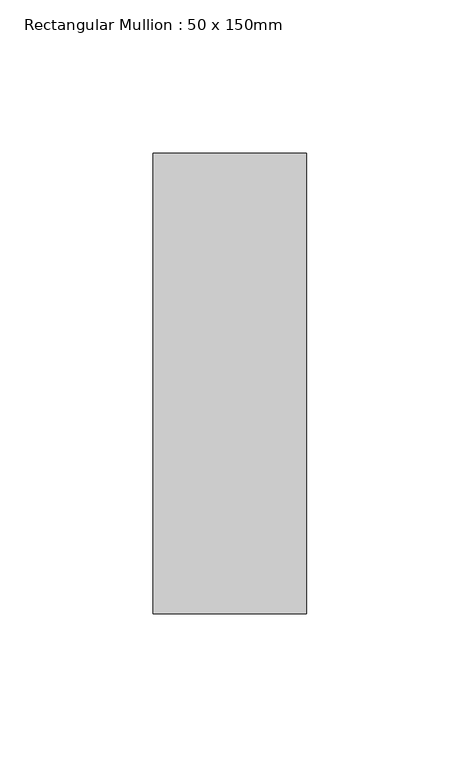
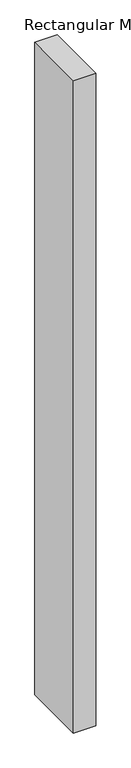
"""IFC4 building model written with IfcOpenShell, lengths in millimetres: member geometry, Rectangular Mullion : 50 x 150mm."""

import ifcopenshell
import ifcopenshell.guid

model = None  # the IFC model being written
_history = None  # IfcOwnerHistory: only IFC2X3 demands one
_inside = {}  # id of a spatial element -> (the spatial element, [elements in it])
_under = {}  # id of a project, library or spatial element -> (it, [spatial elements below it])
_declared = {}  # id of a project -> (the project, [libraries it declares])
_typed = {}  # id of a type object -> (the type object, [elements of that type])
_made_of = {}  # id of a material, layer set ... -> (it, [elements and type objects made of it])


def new_model(schema):
    """Start an empty IFC model of exactly this schema.

    Asked for "IFC4X3", IfcOpenShell would pick the latest addendum, in which some entities
    have other attributes; the version numbers below select the first issue.
    IFC2X3 requires an IfcOwnerHistory on every rooted entity: one is made here for all.
    """
    global model, _history
    if schema == "IFC4X3":
        model = ifcopenshell.file(schema_version=(4, 3, 0, 0))
    else:
        model = ifcopenshell.file(schema=schema)
    _inside.clear()
    _under.clear()
    _declared.clear()
    _typed.clear()
    _made_of.clear()
    _history = None
    if model.schema == "IFC2X3":
        org = make("IfcOrganization", Name="unknown")
        user = make(
            "IfcPersonAndOrganization",
            ThePerson=make("IfcPerson", FamilyName="unknown"),
            TheOrganization=org,
        )
        app = make(
            "IfcApplication",
            ApplicationDeveloper=org,
            Version="unknown",
            ApplicationFullName="unknown",
            ApplicationIdentifier="unknown",
        )
        _history = make(
            "IfcOwnerHistory",
            OwningUser=user,
            OwningApplication=app,
            ChangeAction="ADDED",
            CreationDate=0,
        )
    return model


def make(cls, **values):
    """One entity of the class cls with the attributes given. An attribute that is None is left unset."""
    return model.create_entity(
        cls, **{name: value for name, value in values.items() if value is not None}
    )


def rooted(cls, **values):
    """An entity with a GlobalId (a new one), such as an element, a storey or a relation."""
    return make(cls, GlobalId=ifcopenshell.guid.new(), OwnerHistory=_history, **values)


def si_unit(unit_type, name, prefix=None):
    """IfcSIUnit, for example si_unit("LENGTHUNIT", "METRE", prefix="MILLI")."""
    return make("IfcSIUnit", UnitType=unit_type, Prefix=prefix, Name=name)


def assignment(units):
    """IfcUnitAssignment: the units of a project."""
    return None if units is None else make("IfcUnitAssignment", Units=units)


def point(xyz):
    """IfcCartesianPoint."""
    return None if xyz is None else make("IfcCartesianPoint", Coordinates=xyz)


def direction(xyz):
    """IfcDirection."""
    return None if xyz is None else make("IfcDirection", DirectionRatios=xyz)


def frame(location, z_axis=None, x_axis=None):
    """IfcAxis2Placement3D, a coordinate frame: its origin and axes. An axis left out is left unset."""
    return make(
        "IfcAxis2Placement3D",
        Location=point(location),
        Axis=direction(z_axis),
        RefDirection=direction(x_axis),
    )


def origin():
    """The frame at (0, 0, 0) with its axes left unset."""
    return frame((0.0, 0.0, 0.0))


def place(relative_to, where):
    """IfcLocalPlacement: puts the frame where relative to a parent placement (None: the world)."""
    return make(
        "IfcLocalPlacement", PlacementRelTo=relative_to, RelativePlacement=where
    )


def context(
    kind, dimensions, precision=None, world=None, true_north=None, identifier=None
):
    """IfcGeometricRepresentationContext, for example the 3D "Model" context."""
    return make(
        "IfcGeometricRepresentationContext",
        ContextIdentifier=identifier,
        ContextType=kind,
        CoordinateSpaceDimension=dimensions,
        Precision=precision,
        WorldCoordinateSystem=world,
        TrueNorth=true_north,
    )


def project(units=None, contexts=None):
    """IfcProject with its units and contexts."""
    return rooted(
        "IfcProject",
        Name="project",
        RepresentationContexts=contexts,
        UnitsInContext=assignment(units),
    )


def spatial(cls, under=None, at=None, **own):
    """A site, building, storey or space (cls), placed at a placement, below another one or the project."""
    s = rooted(cls, ObjectPlacement=at, **own)
    if under is not None:
        _under.setdefault(under.id(), (under, []))[1].append(s)
    return s


def polyline(points):
    """IfcPolyline through the points."""
    return make("IfcPolyline", Points=[point(p) for p in points])


def outline(outer, holes=None, kind="AREA"):
    """IfcArbitraryClosedProfileDef: a profile drawn as a closed curve; with holes, ...WithVoids."""
    if holes is None:
        return make("IfcArbitraryClosedProfileDef", ProfileType=kind, OuterCurve=outer)
    return make(
        "IfcArbitraryProfileDefWithVoids",
        ProfileType=kind,
        OuterCurve=outer,
        InnerCurves=holes,
    )


def extrude(swept, where, along, depth):
    """IfcExtrudedAreaSolid: the profile swept, set in the frame where, extruded along a direction by depth."""
    return make(
        "IfcExtrudedAreaSolid",
        SweptArea=swept,
        Position=where,
        ExtrudedDirection=direction(along),
        Depth=depth,
    )


def shape(context_of_items, identifier, shape_type, items):
    """IfcShapeRepresentation: the items that make up one representation, for example the "Body"."""
    return make(
        "IfcShapeRepresentation",
        ContextOfItems=context_of_items,
        RepresentationIdentifier=identifier,
        RepresentationType=shape_type,
        Items=items,
    )


def source(mapping_origin, context_of_items, identifier, shape_type, items):
    """IfcRepresentationMap: a shape defined once, which mapped items show again and again."""
    return make(
        "IfcRepresentationMap",
        MappingOrigin=mapping_origin,
        MappedRepresentation=shape(context_of_items, identifier, shape_type, items),
    )


def transform(
    local_origin,
    x_axis=None,
    y_axis=None,
    z_axis=None,
    scale=None,
    scale2=None,
    scale3=None,
    uniform=True,
):
    """IfcCartesianTransformationOperator3D, or its non-uniform kind. x_axis, y_axis, z_axis: its Axis1, 2, 3."""
    if uniform:
        return make(
            "IfcCartesianTransformationOperator3D",
            Axis1=direction(x_axis),
            Axis2=direction(y_axis),
            LocalOrigin=point(local_origin),
            Scale=scale,
            Axis3=direction(z_axis),
        )
    return make(
        "IfcCartesianTransformationOperator3DnonUniform",
        Axis1=direction(x_axis),
        Axis2=direction(y_axis),
        LocalOrigin=point(local_origin),
        Scale=scale,
        Axis3=direction(z_axis),
        Scale2=scale2,
        Scale3=scale3,
    )


def mapped(mapping_source, mapping_target):
    """IfcMappedItem: shows the shape of a source again, moved by a transform."""
    return make(
        "IfcMappedItem", MappingSource=mapping_source, MappingTarget=mapping_target
    )


def made_of(thing, what):
    """Note that an element or type object is made of a material, layer set ...; save() writes the relation."""
    if what is not None:
        _made_of.setdefault(what.id(), (what, []))[1].append(thing)
    return thing


def element(
    cls,
    number,
    at=None,
    inside=None,
    cuts=None,
    type_object=None,
    material=None,
    context=None,
    identifier="Body",
    shape_type=None,
    held_by="IfcProductDefinitionShape",
    body=None,
    shapes=None,
    **own,
):
    """One element of the class cls, such as IfcWall. Its Tag is "e" and its number.

    at: its placement. inside: the storey or other place that contains it. cuts: it is an
    opening in that element (IfcRelVoidsElement). A single representation is given by context,
    identifier, shape_type and body (its items); several are given by shapes. held_by: the class
    of the entity that holds the representations. save() writes the other relations.
    """
    e = rooted(cls, Tag="e%d" % number, ObjectPlacement=at, **own)
    if body is not None:
        shapes = [shape(context, identifier, shape_type, body)]
    if shapes is not None:
        e.Representation = make(held_by, Representations=shapes)
    if inside is not None:
        _inside.setdefault(inside.id(), (inside, []))[1].append(e)
    if cuts is not None:
        rooted(
            "IfcRelVoidsElement", RelatingBuildingElement=cuts, RelatedOpeningElement=e
        )
    if type_object is not None:
        _typed.setdefault(type_object.id(), (type_object, []))[1].append(e)
    return made_of(e, material)


def aggregate(whole, parts):
    """IfcRelAggregates: a whole, such as a stair, and the parts it consists of."""
    return rooted("IfcRelAggregates", RelatingObject=whole, RelatedObjects=parts)


def save(model, path):
    """Write the relations noted so far, then the file.

    IfcRelAggregates (storeys below a building ...), IfcRelContainedInSpatialStructure (elements
    in a storey), IfcRelDefinesByType, IfcRelAssociatesMaterial and IfcRelDeclares: one each for
    every whole, place, type object, material and project.
    """
    for whole, parts in _under.values():
        aggregate(whole, parts)
    for where, things in _inside.values():
        rooted(
            "IfcRelContainedInSpatialStructure",
            RelatedElements=things,
            RelatingStructure=where,
        )
    for kind, things in _typed.values():
        rooted("IfcRelDefinesByType", RelatedObjects=things, RelatingType=kind)
    for what, things in _made_of.values():
        rooted("IfcRelAssociatesMaterial", RelatedObjects=things, RelatingMaterial=what)
    for by, libraries in _declared.values():
        rooted("IfcRelDeclares", RelatingContext=by, RelatedDefinitions=libraries)
    model.write(path)


def rectangular_mullion_50_x_150mm_248f8441(model_context):
    return source(origin(), model_context, "Body", "SweptSolid", [
        extrude(outline(polyline([(0.0, 0.0), (-0.1589681, -50.0), (-1552.9310328, -50.0), (-1553.0566769, 0.0), (0.0, 0.0)])), frame((0.0, -75.0, 0.0), z_axis=(0.0, 1.0, 0.0), x_axis=(0.0, 0.0, 1.0)), (0.0, 0.0, 1.0), 150.0),
    ])


if __name__ == "__main__":
    model = new_model("IFC4")
    model_context = context("Model", 3, world=origin())
    ifc_project = project(units=[si_unit("LENGTHUNIT", "METRE", prefix="MILLI")], contexts=[model_context])
    site = spatial("IfcSite", under=ifc_project)
    building = spatial("IfcBuilding", under=site)
    placement = place(None, origin())
    rectangular_mullion_50_x_150mm_shape = rectangular_mullion_50_x_150mm_248f8441(model_context)
    element("IfcMember", 1, ObjectType="Rectangular Mullion : 50 x 150mm", at=placement, inside=building, context=model_context, shape_type="MappedRepresentation", body=[
        mapped(rectangular_mullion_50_x_150mm_shape, transform((0.0, 0.0, 0.0), x_axis=(1.0, 0.0, 0.0), y_axis=(0.0, 1.0, 0.0), z_axis=(0.0, 0.0, 1.0))),
    ])
    save(model, "model.ifc")
